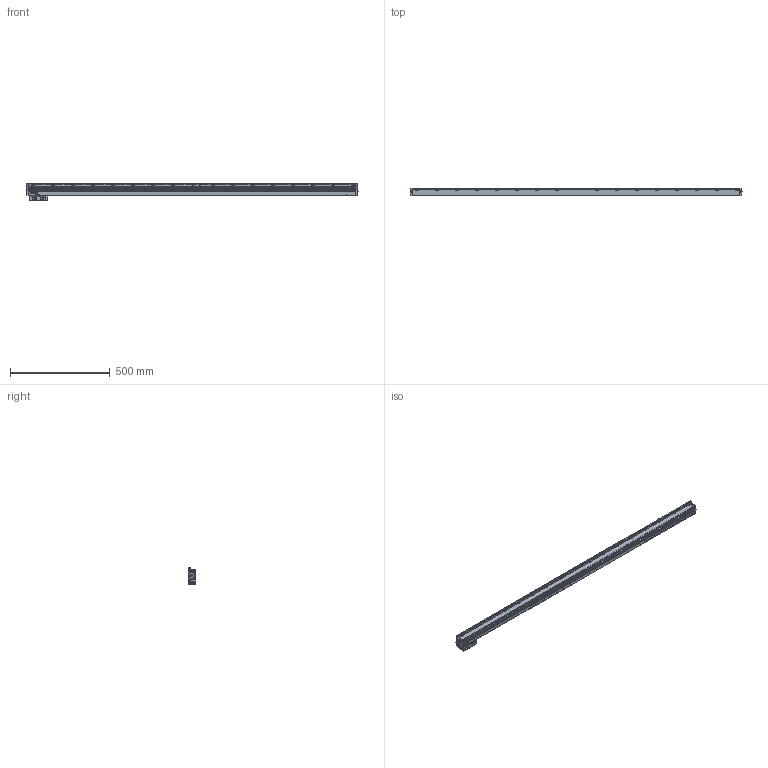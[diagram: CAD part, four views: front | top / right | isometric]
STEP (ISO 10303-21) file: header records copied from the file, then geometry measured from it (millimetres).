
FILE_DESCRIPTION(('Creo Elements/Direct Modeling STEP Export'),'2;1');
FILE_NAME('Regla G2-1540.stp','2015-10-01T12:02:36',(''),(''),'Creo Elements/Direct Modeling STEP processor for AP214 (Solid Model)','Creo Elements/Direct Modeling 18.1G 27-Feb-2015 (C) Parametric Technology GmbH','');
FILE_SCHEMA(('AUTOMOTIVE_DESIGN { 1 0 10303 214 1 1 1 1 }'));
Length unit declared in the file: millimetre
Products named in the file (3): CABEZA; REGLA; Regla_G2_cm1540
Assembly tree (2 placements, depth 2):
  Regla_G2_cm1540
    REGLA
    CABEZA
Bounding box: 1661 x 38 x 85 mm (x, y, z)
Volume: 2528322.2 mm3; surface area: 499525.1 mm2
Topology: 2 solids, 7 shells, 2105 faces, 6211 edges, 4030 vertices
Faces by surface type: plane 927, cylinder 918, cone 190, torus 36, bspline 30, sphere 4
Entity records: 80420 total; most frequent: CARTESIAN_POINT 24990, ORIENTED_EDGE 12406, DIRECTION 10893, EDGE_CURVE 6203, VERTEX_POINT 4030, AXIS2_PLACEMENT_3D 3976, VECTOR 2941, LINE 2941
